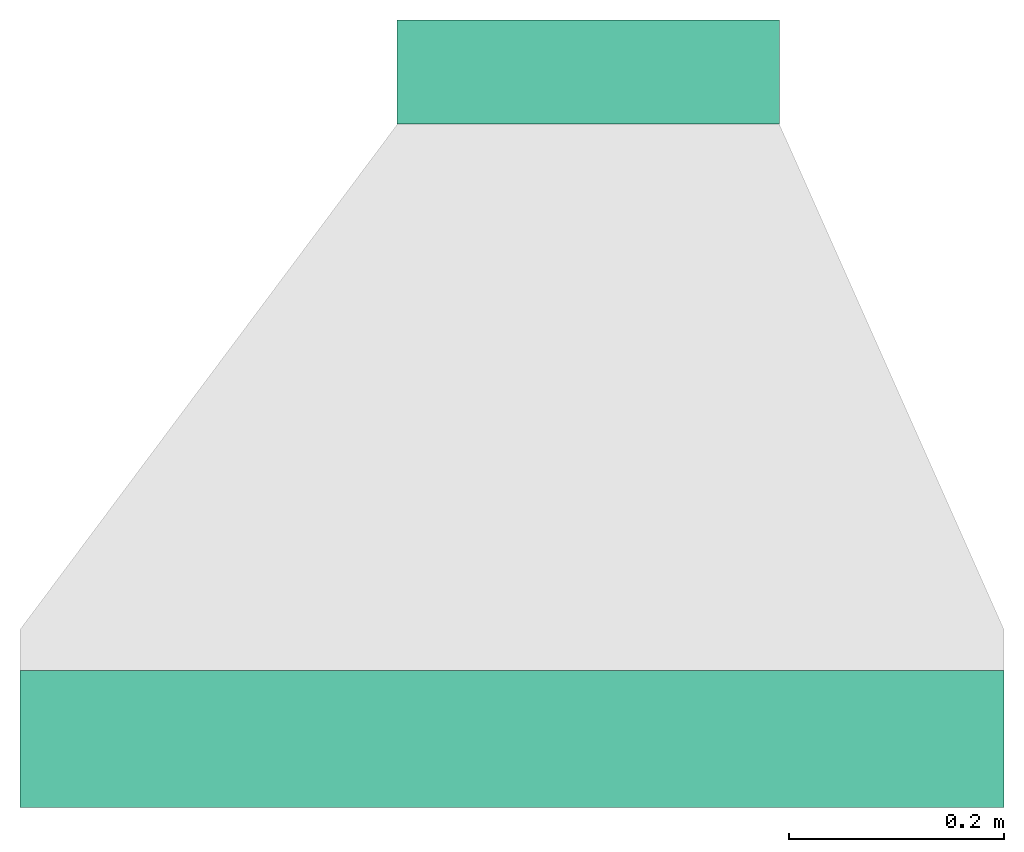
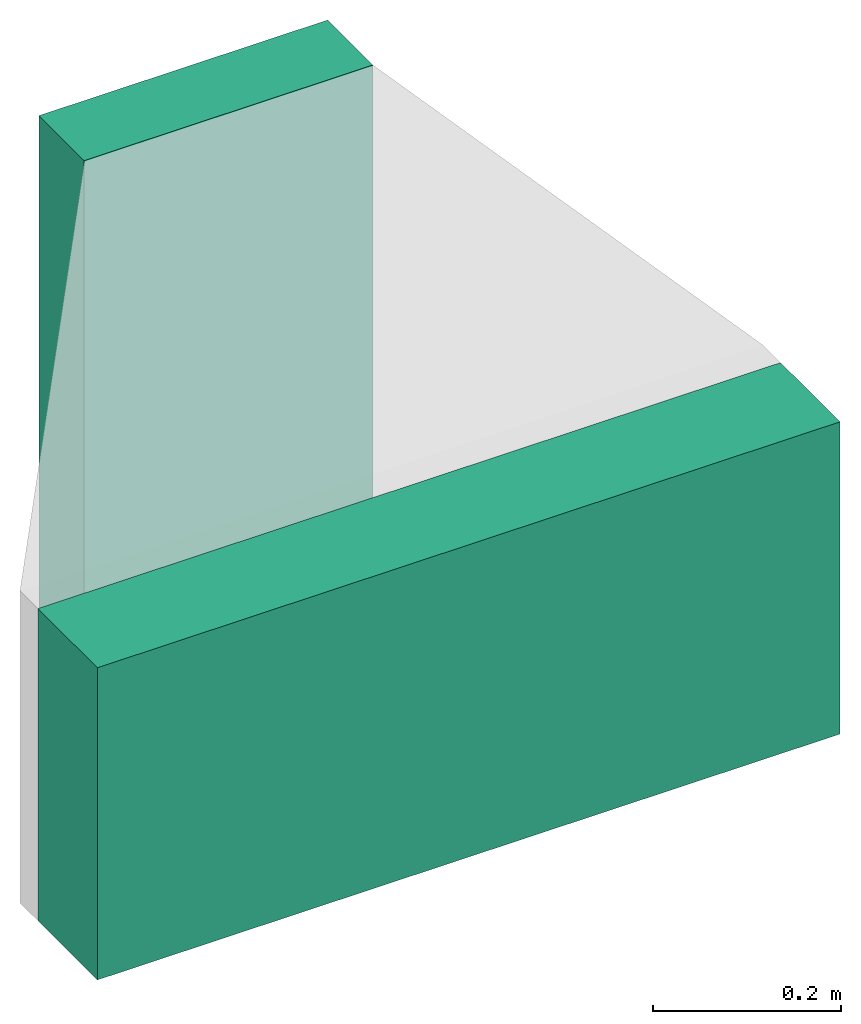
# One storey, part 1 of 2: 2 duct segments.
"""IFC4 building model written with IfcOpenShell, lengths in feet."""

from ifc_helpers import new_model, entity, si_unit, converted_unit, derived_unit, direction, frame, frame_2d, origin, origin_2d_with_axis, place, context, subcontext, project, spatial, rectangle, extrude, type_object, element, save


model = new_model("IFC4")

# Units and contexts
model_context = context("Model", 3, precision=0.0001, world=origin(), true_north=direction((6.12303176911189e-17, 1.0)))
body_context = subcontext(model_context, "Body", "Model", "MODEL_VIEW")
ifc_project = project(units=[converted_unit("LENGTHUNIT", "FOOT", entity("IfcRatioMeasure", 0.3048), si_unit("LENGTHUNIT", "METRE"), dimensions=[1, 0, 0, 0, 0, 0, 0]), converted_unit("AREAUNIT", "SQUARE FOOT", entity("IfcRatioMeasure", 0.09290304), si_unit("AREAUNIT", "SQUARE_METRE"), dimensions=[2, 0, 0, 0, 0, 0, 0]), converted_unit("VOLUMEUNIT", "CUBIC FOOT", entity("IfcRatioMeasure", 0.028316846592), si_unit("VOLUMEUNIT", "CUBIC_METRE"), dimensions=[3, 0, 0, 0, 0, 0, 0]), converted_unit("PLANEANGLEUNIT", "DEGREE", entity("IfcRatioMeasure", 0.0174532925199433), si_unit("PLANEANGLEUNIT", "RADIAN"), dimensions=[0, 0, 0, 0, 0, 0, 0]), si_unit("MASSUNIT", "GRAM", prefix="KILO"), derived_unit("MASSDENSITYUNIT", [(si_unit("MASSUNIT", "GRAM", prefix="KILO"), 1), (si_unit("LENGTHUNIT", "METRE"), -3)]), si_unit("TIMEUNIT", "SECOND"), si_unit("FREQUENCYUNIT", "HERTZ"), si_unit("THERMODYNAMICTEMPERATUREUNIT", "DEGREE_CELSIUS"), derived_unit("THERMALTRANSMITTANCEUNIT", [(si_unit("MASSUNIT", "GRAM", prefix="KILO"), 1), (si_unit("THERMODYNAMICTEMPERATUREUNIT", "KELVIN"), -1), (si_unit("TIMEUNIT", "SECOND"), -3)]), derived_unit("VOLUMETRICFLOWRATEUNIT", [(si_unit("LENGTHUNIT", "METRE"), 3), (si_unit("TIMEUNIT", "SECOND"), -1)]), si_unit("ELECTRICCURRENTUNIT", "AMPERE"), si_unit("ELECTRICVOLTAGEUNIT", "VOLT"), si_unit("POWERUNIT", "WATT"), si_unit("FORCEUNIT", "NEWTON"), si_unit("ILLUMINANCEUNIT", "LUX"), si_unit("LUMINOUSFLUXUNIT", "LUMEN"), si_unit("LUMINOUSINTENSITYUNIT", "CANDELA"), derived_unit("USERDEFINED", [(si_unit("MASSUNIT", "GRAM", prefix="KILO"), -1), (si_unit("LENGTHUNIT", "METRE"), -2), (si_unit("TIMEUNIT", "SECOND"), 3), (si_unit("LUMINOUSFLUXUNIT", "LUMEN"), 1)]), derived_unit("LINEARVELOCITYUNIT", [(si_unit("LENGTHUNIT", "METRE"), 1), (si_unit("TIMEUNIT", "SECOND"), -1)]), si_unit("PRESSUREUNIT", "PASCAL"), derived_unit("USERDEFINED", [(si_unit("LENGTHUNIT", "METRE"), -2), (si_unit("MASSUNIT", "GRAM", prefix="KILO"), 1), (si_unit("TIMEUNIT", "SECOND"), -2)])], contexts=[model_context])

# Site, building, storey
site_placement = place(None, origin())
site = spatial("IfcSite", under=ifc_project, at=site_placement, Name="Default", CompositionType="ELEMENT")
building_placement = place(site_placement, origin())
building = spatial("IfcBuilding", under=site, at=building_placement, CompositionType="ELEMENT")
storey_placement = place(building_placement, frame((0.0, 0.0, 24.0)))
storey = spatial("IfcBuildingStorey", under=building, at=storey_placement, Name="Level 3", CompositionType="ELEMENT", Elevation=24.0000000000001)

# Duct segments
duct_segment_type = type_object("IfcDuctSegmentType", Name="Rectangular Duct:Square Throat Elbows / S&D", PredefinedType="NOTDEFINED")
duct_segment_1_placement = place(storey_placement, frame((-39.1077477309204, -0.0178245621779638, 153.083333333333)))
element("IfcDuctSegment", 1, at=duct_segment_1_placement, inside=storey, type_object=duct_segment_type, Name="Rectangular Duct:Square Throat Elbows / S&D", ObjectType="Rectangular Duct:Square Throat Elbows / S&D", PredefinedType="NOTDEFINED", context=body_context, shape_type="SweptSolid", body=[
    extrude(rectangle(XDim=0.316852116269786, YDim=1.16666666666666, at=frame_2d((0.0, -3.5527136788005e-15), x_axis=(1.0, 0.0))), frame((0.583333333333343, 0.158426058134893, 0.0), z_axis=(0.0, 0.0, 1.0), x_axis=(0.0, -1.0, 0.0)), (0.0, 0.0, 1.0), 2.33333333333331),
])
duct_segment_2_placement = place(storey_placement, frame((-40.2569229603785, -2.10115789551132, 153.583333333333)))
element("IfcDuctSegment", 2, at=duct_segment_2_placement, inside=storey, type_object=duct_segment_type, Name="Rectangular Duct:Square Throat Elbows / S&D", ObjectType="Rectangular Duct:Square Throat Elbows / S&D", PredefinedType="NOTDEFINED", context=body_context, shape_type="SweptSolid", body=[
    extrude(rectangle(XDim=0.416666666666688, YDim=3.0, at=origin_2d_with_axis()), frame((1.5, 0.208333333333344, 0.0), z_axis=(0.0, 0.0, 1.0), x_axis=(0.0, 1.0, 0.0)), (0.0, 0.0, 1.0), 1.33333333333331),
])

save(model, "model.ifc")
